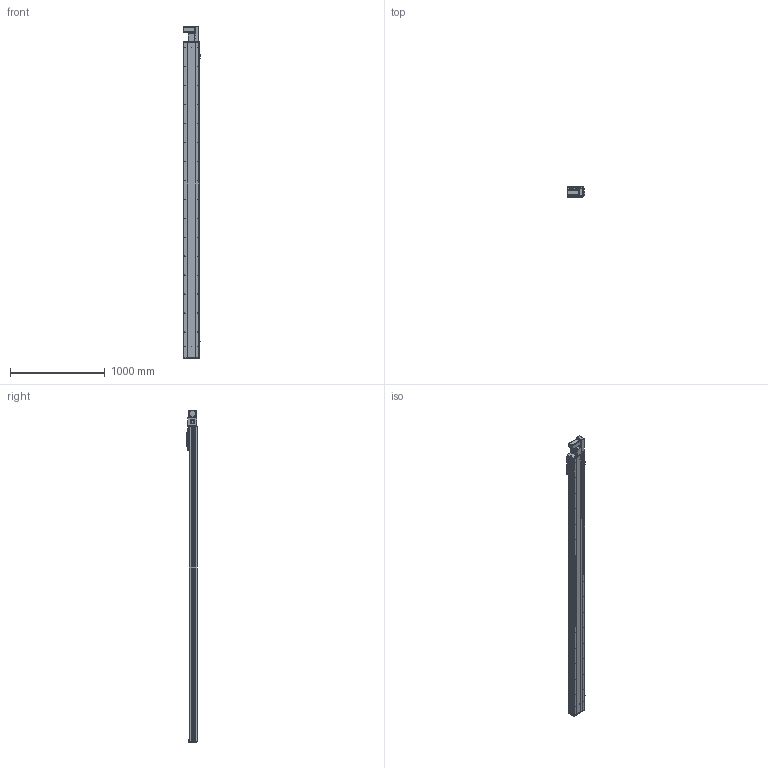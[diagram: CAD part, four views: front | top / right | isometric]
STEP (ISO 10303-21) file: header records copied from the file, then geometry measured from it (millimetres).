
FILE_DESCRIPTION (( 'STEP AP203' ), '1' );
FILE_NAME ('Y170CB-D105-S3000-BR-P400W.STEP', '2020-02-20T00:53:39', ( '微软用户' ), ( '微软中国' ), 'SwSTEP 2.0', 'SolidWorks 2017', '' );
FILE_SCHEMA (( 'CONFIG_CONTROL_DESIGN' ));
Length unit declared in the file: millimetre
Products named in the file (17): B-源倛裔啣; 70CB-詩湍--; Y70俋欶BR----; Y100-135俋离換覜ん--; 70CB-掛极-; Y170CB-陔俋离換覜結え---; --70CB --喘謫眊楊擘啣-; Y170CB-D105-S3000-BR-P400W; 70CB-耜裔啣-; 70C--詩湍揤踡え-; 70CB--耜裔; 17B-耜蚾蟀諉啣----; 70C-雄赽釱-奻-; 0B-萇儂楊擘啣; 70B喘謫眊----; 0C--雄赽釱俋欶-170; san松下电机400不带刹车----
Assembly tree (20 placements, depth 2):
  Y170CB-D105-S3000-BR-P400W
    70B喘謫眊----
    B-源倛裔啣
    17B-耜蚾蟀諉啣----
    0B-萇儂楊擘啣
    san松下电机400不带刹车----
    Y70俋欶BR----
    70CB-掛极-
    --70CB --喘謫眊楊擘啣-
    70CB-耜裔啣-  x2
    70C--詩湍揤踡え-  x2
    70CB--耜裔
    70C-雄赽釱-奻-
    0C--雄赽釱俋欶-170
    70CB-詩湍--
    Y100-135俋离換覜ん--  x3
    Y170CB-陔俋离換覜結え---
Bounding box: 183.5 x 107 x 3497 mm (x, y, z)
Volume: 14407072 mm3; surface area: 5200934.2 mm2
Topology: 20 solids, 20 shells, 1073 faces, 2897 edges, 1922 vertices
Faces by surface type: cylinder 587, plane 462, cone 24
Entity records: 34379 total; most frequent: CARTESIAN_POINT 6381, DIRECTION 5596, ORIENTED_EDGE 5276, EDGE_CURVE 2638, AXIS2_PLACEMENT_3D 2065, VERTEX_POINT 1752, VECTOR 1466, LINE 1466
